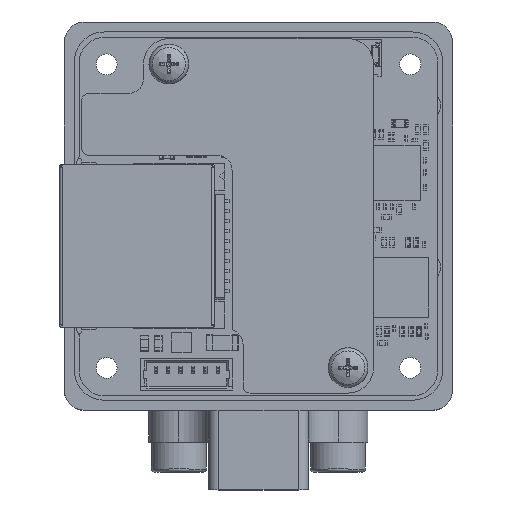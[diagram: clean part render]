
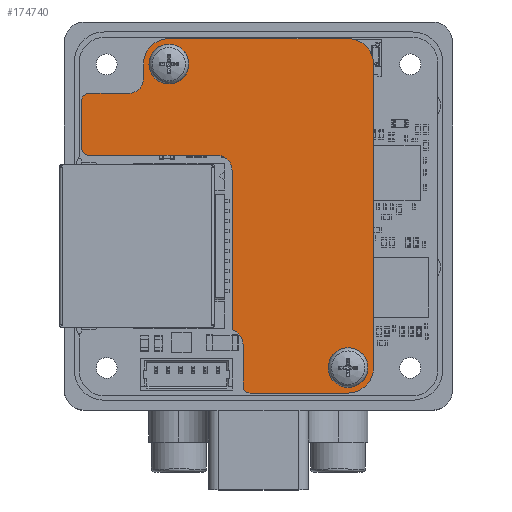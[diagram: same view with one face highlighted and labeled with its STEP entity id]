
A CAD part, top view. The second image highlights one B-rep face of the part: STEP entity #174740.
In plain terms, the highlighted planar face has unit normal (0, 0, 1).
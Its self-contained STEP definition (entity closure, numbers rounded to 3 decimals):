
#2251=FACE_BOUND('',#28008,.T.);
#2252=FACE_BOUND('',#28009,.T.);
#7293=CIRCLE('',#185685,2.);
#7828=CIRCLE('',#186675,0.7);
#7829=CIRCLE('',#186676,1.499);
#7830=CIRCLE('',#186677,1.501);
#7831=CIRCLE('',#186678,0.7);
#7832=CIRCLE('',#186679,2.55);
#7833=CIRCLE('',#186680,2.55);
#7834=CIRCLE('',#186681,2.55);
#7835=CIRCLE('',#186682,1.499);
#7836=CIRCLE('',#186683,0.7);
#7837=CIRCLE('',#186684,2.);
#17323=FACE_OUTER_BOUND('',#28007,.T.);
#28007=EDGE_LOOP('',(#119814,#119815,#119816,#119817,#119818,#119819,#119820,
#119821,#119822,#119823,#119824,#119825,#119826,#119827,#119828,#119829,
#119830,#119831));
#28008=EDGE_LOOP('',(#119832));
#28009=EDGE_LOOP('',(#119833));
#42265=LINE('',#269653,#58416);
#42266=LINE('',#269657,#58417);
#42267=LINE('',#269661,#58418);
#42268=LINE('',#269665,#58419);
#42269=LINE('',#269669,#58420);
#42270=LINE('',#269673,#58421);
#42271=LINE('',#269677,#58422);
#42272=LINE('',#269681,#58423);
#42273=LINE('',#269684,#58424);
#58416=VECTOR('',#214035,1.);
#58417=VECTOR('',#214038,1.);
#58418=VECTOR('',#214041,1.);
#58419=VECTOR('',#214044,1.);
#58420=VECTOR('',#214047,1.);
#58421=VECTOR('',#214050,1.);
#58422=VECTOR('',#214053,1.);
#58423=VECTOR('',#214056,1.);
#58424=VECTOR('',#214059,1.);
#72402=VERTEX_POINT('',#266339);
#73476=VERTEX_POINT('',#269649);
#73477=VERTEX_POINT('',#269650);
#73478=VERTEX_POINT('',#269652);
#73479=VERTEX_POINT('',#269654);
#73480=VERTEX_POINT('',#269656);
#73481=VERTEX_POINT('',#269658);
#73482=VERTEX_POINT('',#269660);
#73483=VERTEX_POINT('',#269662);
#73484=VERTEX_POINT('',#269664);
#73485=VERTEX_POINT('',#269666);
#73486=VERTEX_POINT('',#269668);
#73487=VERTEX_POINT('',#269670);
#73488=VERTEX_POINT('',#269672);
#73489=VERTEX_POINT('',#269674);
#73490=VERTEX_POINT('',#269676);
#73491=VERTEX_POINT('',#269678);
#73492=VERTEX_POINT('',#269680);
#73493=VERTEX_POINT('',#269682);
#73494=VERTEX_POINT('',#269685);
#88210=EDGE_CURVE('',#72402,#72402,#7293,.T.);
#89722=EDGE_CURVE('',#73476,#73477,#7828,.T.);
#89723=EDGE_CURVE('',#73478,#73476,#42265,.T.);
#89724=EDGE_CURVE('',#73479,#73478,#7829,.T.);
#89725=EDGE_CURVE('',#73480,#73479,#42266,.T.);
#89726=EDGE_CURVE('',#73481,#73480,#7830,.T.);
#89727=EDGE_CURVE('',#73482,#73481,#42267,.T.);
#89728=EDGE_CURVE('',#73483,#73482,#7831,.T.);
#89729=EDGE_CURVE('',#73484,#73483,#42268,.T.);
#89730=EDGE_CURVE('',#73485,#73484,#7832,.T.);
#89731=EDGE_CURVE('',#73486,#73485,#42269,.T.);
#89732=EDGE_CURVE('',#73487,#73486,#7833,.T.);
#89733=EDGE_CURVE('',#73488,#73487,#42270,.T.);
#89734=EDGE_CURVE('',#73489,#73488,#7834,.T.);
#89735=EDGE_CURVE('',#73490,#73489,#42271,.T.);
#89736=EDGE_CURVE('',#73491,#73490,#7835,.T.);
#89737=EDGE_CURVE('',#73492,#73491,#42272,.T.);
#89738=EDGE_CURVE('',#73493,#73492,#7836,.T.);
#89739=EDGE_CURVE('',#73477,#73493,#42273,.T.);
#89740=EDGE_CURVE('',#73494,#73494,#7837,.T.);
#119814=ORIENTED_EDGE('',*,*,#89722,.F.);
#119815=ORIENTED_EDGE('',*,*,#89723,.F.);
#119816=ORIENTED_EDGE('',*,*,#89724,.F.);
#119817=ORIENTED_EDGE('',*,*,#89725,.F.);
#119818=ORIENTED_EDGE('',*,*,#89726,.F.);
#119819=ORIENTED_EDGE('',*,*,#89727,.F.);
#119820=ORIENTED_EDGE('',*,*,#89728,.F.);
#119821=ORIENTED_EDGE('',*,*,#89729,.F.);
#119822=ORIENTED_EDGE('',*,*,#89730,.F.);
#119823=ORIENTED_EDGE('',*,*,#89731,.F.);
#119824=ORIENTED_EDGE('',*,*,#89732,.F.);
#119825=ORIENTED_EDGE('',*,*,#89733,.F.);
#119826=ORIENTED_EDGE('',*,*,#89734,.F.);
#119827=ORIENTED_EDGE('',*,*,#89735,.F.);
#119828=ORIENTED_EDGE('',*,*,#89736,.F.);
#119829=ORIENTED_EDGE('',*,*,#89737,.F.);
#119830=ORIENTED_EDGE('',*,*,#89738,.F.);
#119831=ORIENTED_EDGE('',*,*,#89739,.F.);
#119832=ORIENTED_EDGE('',*,*,#88210,.T.);
#119833=ORIENTED_EDGE('',*,*,#89740,.T.);
#159109=PLANE('',#186674);
#174740=ADVANCED_FACE('',(#17323,#2251,#2252),#159109,.F.);
#185685=AXIS2_PLACEMENT_3D('',#266340,#211144,#211145);
#186674=AXIS2_PLACEMENT_3D('',#269648,#214031,#214032);
#186675=AXIS2_PLACEMENT_3D('',#269651,#214033,#214034);
#186676=AXIS2_PLACEMENT_3D('',#269655,#214036,#214037);
#186677=AXIS2_PLACEMENT_3D('',#269659,#214039,#214040);
#186678=AXIS2_PLACEMENT_3D('',#269663,#214042,#214043);
#186679=AXIS2_PLACEMENT_3D('',#269667,#214045,#214046);
#186680=AXIS2_PLACEMENT_3D('',#269671,#214048,#214049);
#186681=AXIS2_PLACEMENT_3D('',#269675,#214051,#214052);
#186682=AXIS2_PLACEMENT_3D('',#269679,#214054,#214055);
#186683=AXIS2_PLACEMENT_3D('',#269683,#214057,#214058);
#186684=AXIS2_PLACEMENT_3D('',#269686,#214060,#214061);
#211144=DIRECTION('center_axis',(0.,0.,
-1.));
#211145=DIRECTION('ref_axis',(0.,1.,0.));
#214031=DIRECTION('center_axis',(0.,0.,
-1.));
#214032=DIRECTION('ref_axis',(-1.,0.,0.));
#214033=DIRECTION('center_axis',(0.,0.,
-1.));
#214034=DIRECTION('ref_axis',(0.,-1.,0.));
#214035=DIRECTION('',(-1.,0.,0.));
#214036=DIRECTION('center_axis',(0.,0.,
1.));
#214037=DIRECTION('ref_axis',(1.,-0.001,0.));
#214038=DIRECTION('',(0.,1.,0.));
#214039=DIRECTION('center_axis',(0.,0.,
1.));
#214040=DIRECTION('ref_axis',(1.,0.,0.));
#214041=DIRECTION('',(0.,1.,0.));
#214042=DIRECTION('center_axis',(0.,0.,
-1.));
#214043=DIRECTION('ref_axis',(0.,-1.,0.));
#214044=DIRECTION('',(-1.,0.,0.));
#214045=DIRECTION('center_axis',(0.,0.,
-1.));
#214046=DIRECTION('ref_axis',(1.,0.,0.));
#214047=DIRECTION('',(0.,-1.,0.));
#214048=DIRECTION('center_axis',(0.,0.,
-1.));
#214049=DIRECTION('ref_axis',(0.,1.,0.));
#214050=DIRECTION('',(1.,0.,0.));
#214051=DIRECTION('center_axis',(0.,0.,
-1.));
#214052=DIRECTION('ref_axis',(-1.,0.,0.));
#214053=DIRECTION('',(0.,1.,0.));
#214054=DIRECTION('center_axis',(0.,0.,
1.));
#214055=DIRECTION('ref_axis',(-0.001,-1.,
0.));
#214056=DIRECTION('',(1.,0.,0.));
#214057=DIRECTION('center_axis',(0.,0.,
-1.));
#214058=DIRECTION('ref_axis',(-1.,0.,
0.));
#214059=DIRECTION('',(0.,1.,0.));
#214060=DIRECTION('center_axis',(0.,0.,
-1.));
#214061=DIRECTION('ref_axis',(0.,1.,0.));
#266339=CARTESIAN_POINT('',(-9.,13.25,22.999));
#266340=CARTESIAN_POINT('Origin',(-9.,15.25,22.999));
#269648=CARTESIAN_POINT('Origin',(0.057,2.485,22.999));
#269649=CARTESIAN_POINT('',(-17.05,6.075,22.999));
#269650=CARTESIAN_POINT('',(-17.75,6.775,22.999));
#269651=CARTESIAN_POINT('Origin',(-17.05,6.775,22.999));
#269652=CARTESIAN_POINT('',(-4.15,6.075,22.999));
#269653=CARTESIAN_POINT('',(-4.15,6.075,22.999));
#269654=CARTESIAN_POINT('',(-2.65,4.575,22.999));
#269655=CARTESIAN_POINT('Origin',(-4.149,4.576,22.999));
#269656=CARTESIAN_POINT('',(-2.65,-11.454,22.999));
#269657=CARTESIAN_POINT('',(-2.65,-11.454,22.999));
#269658=CARTESIAN_POINT('',(-1.55,-12.9,22.999));
#269659=CARTESIAN_POINT('Origin',(-3.051,-12.9,22.999));
#269660=CARTESIAN_POINT('',(-1.55,-17.1,22.999));
#269661=CARTESIAN_POINT('',(-1.55,-17.1,22.999));
#269662=CARTESIAN_POINT('',(-0.85,-17.8,22.999));
#269663=CARTESIAN_POINT('Origin',(-0.85,-17.1,22.999));
#269664=CARTESIAN_POINT('',(9.,-17.8,22.999));
#269665=CARTESIAN_POINT('',(9.,-17.8,22.999));
#269666=CARTESIAN_POINT('',(11.55,-15.25,22.999));
#269667=CARTESIAN_POINT('Origin',(9.,-15.25,22.999));
#269668=CARTESIAN_POINT('',(11.55,15.25,22.999));
#269669=CARTESIAN_POINT('',(11.55,15.25,22.999));
#269670=CARTESIAN_POINT('',(9.,17.8,22.999));
#269671=CARTESIAN_POINT('Origin',(9.,15.25,22.999));
#269672=CARTESIAN_POINT('',(-9.,17.8,22.999));
#269673=CARTESIAN_POINT('',(-9.,17.8,22.999));
#269674=CARTESIAN_POINT('',(-11.55,15.25,22.999));
#269675=CARTESIAN_POINT('Origin',(-9.,15.25,22.999));
#269676=CARTESIAN_POINT('',(-11.55,13.8,22.999));
#269677=CARTESIAN_POINT('',(-11.55,13.8,22.999));
#269678=CARTESIAN_POINT('',(-13.05,12.3,22.999));
#269679=CARTESIAN_POINT('Origin',(-13.049,13.799,22.999));
#269680=CARTESIAN_POINT('',(-17.05,12.3,22.999));
#269681=CARTESIAN_POINT('',(-17.05,12.3,22.999));
#269682=CARTESIAN_POINT('',(-17.75,11.6,22.999));
#269683=CARTESIAN_POINT('Origin',(-17.05,11.6,22.999));
#269684=CARTESIAN_POINT('',(-17.75,6.775,22.999));
#269685=CARTESIAN_POINT('',(9.,-17.25,22.999));
#269686=CARTESIAN_POINT('Origin',(9.,-15.25,22.999));
